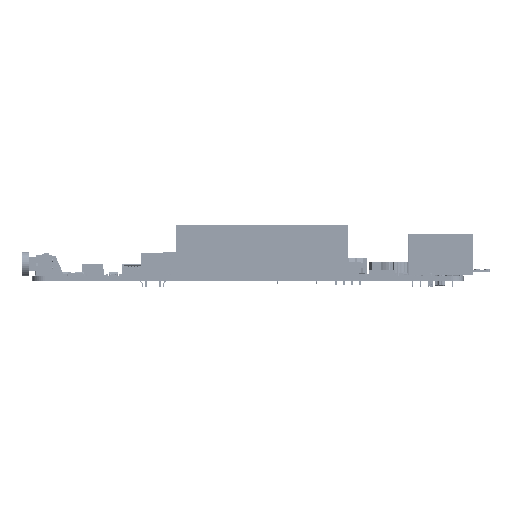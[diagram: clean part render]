
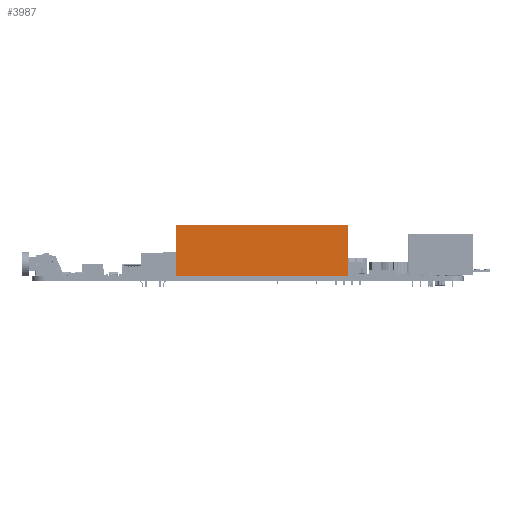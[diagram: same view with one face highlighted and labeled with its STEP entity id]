
A CAD part, front view. The second image highlights one B-rep face of the part: STEP entity #3987.
In plain terms, the highlighted planar face has unit normal (0.001, -1, 0).
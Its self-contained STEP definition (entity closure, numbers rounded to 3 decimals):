
#1883=DIRECTION('',(1.,0.001,0.));
#1884=VECTOR('',#1883,56.);
#1885=CARTESIAN_POINT('',(-28.288,-84.215,-18.8));
#1886=LINE('',#1885,#1884);
#2354=DIRECTION('',(0.,0.,1.));
#2355=VECTOR('',#2354,16.6);
#2356=CARTESIAN_POINT('',(27.712,-84.176,-18.8));
#2357=LINE('',#2356,#2355);
#2368=DIRECTION('',(0.,0.,1.));
#2369=VECTOR('',#2368,16.6);
#2370=CARTESIAN_POINT('',(-28.288,-84.215,-18.8));
#2371=LINE('',#2370,#2369);
#2375=DIRECTION('',(1.,0.001,0.));
#2376=VECTOR('',#2375,56.);
#2377=CARTESIAN_POINT('',(-28.288,-84.215,-2.2));
#2378=LINE('',#2377,#2376);
#2710=CARTESIAN_POINT('',(-28.288,-84.215,-18.8));
#2712=VERTEX_POINT('',#2710);
#2713=CARTESIAN_POINT('',(27.712,-84.176,-18.8));
#2714=VERTEX_POINT('',#2713);
#2725=CARTESIAN_POINT('',(27.712,-84.176,-2.2));
#2726=VERTEX_POINT('',#2725);
#2727=CARTESIAN_POINT('',(-28.288,-84.215,-2.2));
#2728=VERTEX_POINT('',#2727);
#3974=CARTESIAN_POINT('',(-28.288,-84.215,-18.8));
#3975=DIRECTION('',(0.001,-1.,0.));
#3976=DIRECTION('',(1.,0.001,0.));
#3977=AXIS2_PLACEMENT_3D('',#3974,#3975,#3976);
#3978=PLANE('',#3977);
#3979=ORIENTED_EDGE('',*,*,#3504,.F.);
#3981=ORIENTED_EDGE('',*,*,#3980,.T.);
#3983=ORIENTED_EDGE('',*,*,#3982,.T.);
#3984=ORIENTED_EDGE('',*,*,#3959,.F.);
#3985=EDGE_LOOP('',(#3979,#3981,#3983,#3984));
#3986=FACE_OUTER_BOUND('',#3985,.F.);
#3987=ADVANCED_FACE('',(#3986),#3978,.T.);
#3504=EDGE_CURVE('',#2712,#2714,#1886,.T.);
#3959=EDGE_CURVE('',#2714,#2726,#2357,.T.);
#3980=EDGE_CURVE('',#2712,#2728,#2371,.T.);
#3982=EDGE_CURVE('',#2728,#2726,#2378,.T.);
